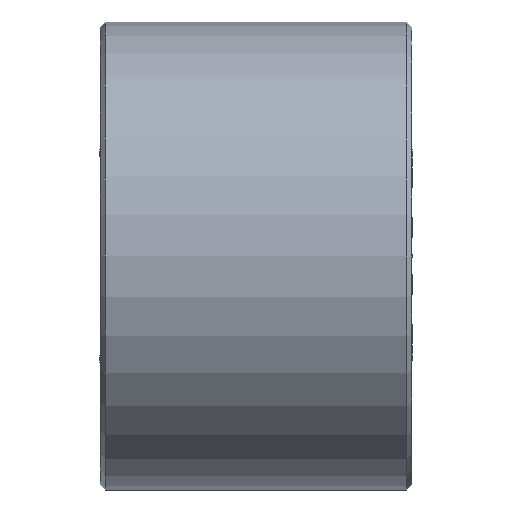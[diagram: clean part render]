
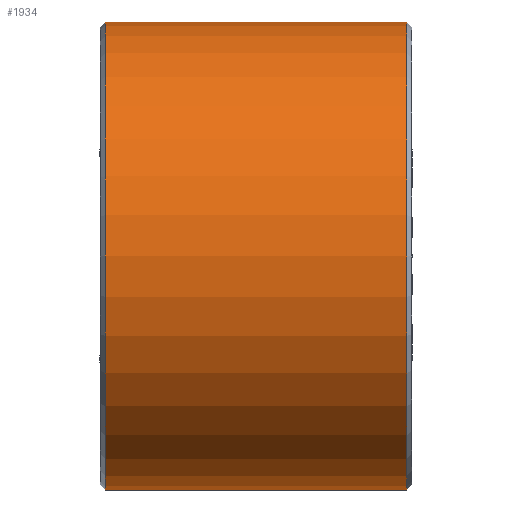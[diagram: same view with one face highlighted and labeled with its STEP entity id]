
A CAD part, front view. The second image highlights one B-rep face of the part: STEP entity #1934.
In plain terms, the highlighted cylindrical face has radius 22.5 mm (diameter 45 mm), a partial arc.
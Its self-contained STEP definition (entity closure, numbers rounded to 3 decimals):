
#85=DIRECTION('',(1.,0.,0.));
#86=VECTOR('',#85,29.);
#87=CARTESIAN_POINT('',(-14.5,0.,
-22.5));
#88=LINE('',#87,#86);
#136=CARTESIAN_POINT('',(14.5,0.,0.));
#137=DIRECTION('',(1.,0.,0.));
#138=DIRECTION('',(0.,0.,1.));
#139=AXIS2_PLACEMENT_3D('',#136,#137,#138);
#141=CARTESIAN_POINT('',(-14.5,0.,0.));
#142=DIRECTION('',(-1.,0.,0.));
#143=DIRECTION('',(0.,0.,-1.));
#144=AXIS2_PLACEMENT_3D('',#141,#142,#143);
#146=DIRECTION('',(1.,0.,0.));
#147=VECTOR('',#146,29.);
#148=CARTESIAN_POINT('',(-14.5,0.,
22.5));
#149=LINE('',#148,#147);
#1795=CARTESIAN_POINT('',(14.5,0.,22.5));
#1796=CARTESIAN_POINT('',(14.5,0.,-22.5));
#1797=VERTEX_POINT('',#1795);
#1798=VERTEX_POINT('',#1796);
#1803=CARTESIAN_POINT('',(-14.5,0.,-22.5));
#1804=CARTESIAN_POINT('',(-14.5,0.,22.5));
#1805=VERTEX_POINT('',#1803);
#1806=VERTEX_POINT('',#1804);
#1923=CARTESIAN_POINT('',(-15.,0.,0.));
#1924=DIRECTION('',(1.,0.,0.));
#1925=DIRECTION('',(0.,0.,-1.));
#1926=AXIS2_PLACEMENT_3D('',#1923,#1924,#1925);
#1927=CYLINDRICAL_SURFACE('',#1926,22.5);
#1928=ORIENTED_EDGE('',*,*,#1917,.T.);
#1929=ORIENTED_EDGE('',*,*,#1867,.F.);
#1930=ORIENTED_EDGE('',*,*,#1837,.T.);
#1931=ORIENTED_EDGE('',*,*,#1864,.T.);
#1932=EDGE_LOOP('',(#1928,#1929,#1930,#1931));
#1933=FACE_OUTER_BOUND('',#1932,.F.);
#1934=ADVANCED_FACE('',(#1933),#1927,.T.);
#140=CIRCLE('',#139,22.5);
#145=CIRCLE('',#144,22.5);
#1837=EDGE_CURVE('',#1805,#1806,#145,.T.);
#1864=EDGE_CURVE('',#1806,#1797,#149,.T.);
#1867=EDGE_CURVE('',#1805,#1798,#88,.T.);
#1917=EDGE_CURVE('',#1797,#1798,#140,.T.);
